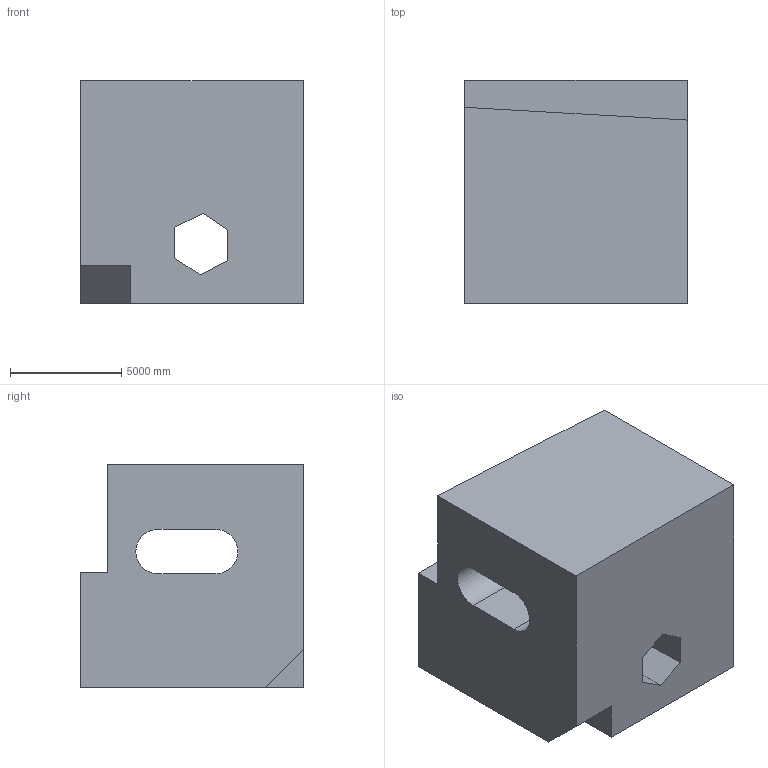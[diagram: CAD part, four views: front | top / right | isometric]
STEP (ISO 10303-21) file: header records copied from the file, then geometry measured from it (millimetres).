
FILE_DESCRIPTION (( 'STEP AP203' ), '1' );
FILE_NAME ('1430.STEP', '2022-08-25T14:56:46', ( 'user' ), ( '' ), 'SwSTEP 2.0', 'SolidWorks 2021', '' );
FILE_SCHEMA (( 'CONFIG_CONTROL_DESIGN' ));
Length unit declared in the file: centimetre
Products named in the file (1): 1430
Bounding box: 10000 x 10000 x 10000 mm (x, y, z)
Volume: 786551334102.8 mm3; surface area: 749510070.4 mm2
Topology: 1 solids, 1 shells, 22 faces, 60 edges, 40 vertices
Faces by surface type: plane 20, cylinder 2
Entity records: 773 total; most frequent: CARTESIAN_POINT 123, ORIENTED_EDGE 120, DIRECTION 110, EDGE_CURVE 60, LINE 56, VECTOR 56, VERTEX_POINT 40, AXIS2_PLACEMENT_3D 27
